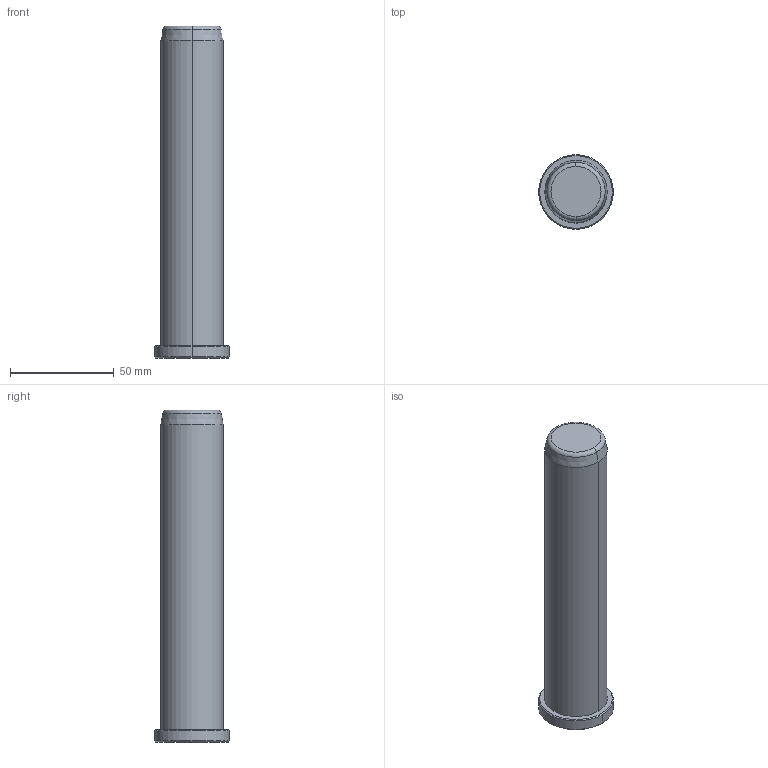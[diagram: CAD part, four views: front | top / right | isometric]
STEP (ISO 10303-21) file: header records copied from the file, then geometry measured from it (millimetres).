
FILE_DESCRIPTION((''),'2;1');
FILE_NAME('B81830160','2018-01-06T',('MANU'),(''),'PRO/ENGINEER BY PARAMETRIC TECHNOLOGY CORPORATION, 2012130','PRO/ENGINEER BY PARAMETRIC TECHNOLOGY CORPORATION, 2012130','');
FILE_SCHEMA(('CONFIG_CONTROL_DESIGN'));
Length unit declared in the file: millimetre
Products named in the file (1): B81830160
Bounding box: 36 x 36 x 160 mm (x, y, z)
Volume: 114491.7 mm3; surface area: 16982.5 mm2
Topology: 1 solids, 1 shells, 15 faces, 28 edges, 16 vertices
Faces by surface type: cone 6, cylinder 4, plane 3, torus 2
Entity records: 414 total; most frequent: DIRECTION 76, CARTESIAN_POINT 59, ORIENTED_EDGE 56, AXIS2_PLACEMENT_3D 33, EDGE_CURVE 28, CIRCLE 18, VERTEX_POINT 16, EDGE_LOOP 16
